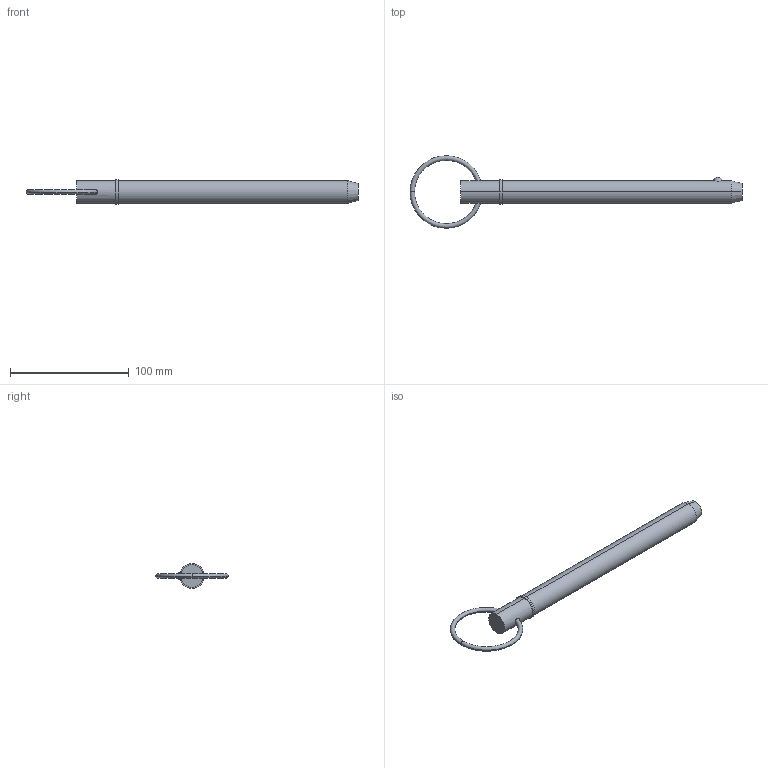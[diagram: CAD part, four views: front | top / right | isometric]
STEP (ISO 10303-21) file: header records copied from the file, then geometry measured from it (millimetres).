
FILE_DESCRIPTION (( 'STEP AP203' ), '1' );
FILE_NAME ('33016.W7570.step', '2024-11-07T11:15:35', ( '' ), ( '' ), 'SwSTEP 2.0', 'SolidWorks 2019', '' );
FILE_SCHEMA (( 'CONFIG_CONTROL_DESIGN' ));
Length unit declared in the file: millimetre
Products named in the file (3): Part2_33016.W7570; 33016.W7570; Part1_33016.W7570
Assembly tree (2 placements, depth 2):
  33016.W7570
    Part1_33016.W7570
    Part2_33016.W7570
Bounding box: 279 x 60.96 x 20.95 mm (x, y, z)
Volume: 68723.1 mm3; surface area: 17107.4 mm2
Topology: 2 solids, 2 shells, 22 faces, 43 edges, 26 vertices
Faces by surface type: torus 8, cylinder 6, plane 4, sphere 2, cone 2
Entity records: 1053 total; most frequent: CARTESIAN_POINT 276, DIRECTION 120, ORIENTED_EDGE 86, AXIS2_PLACEMENT_3D 56, EDGE_CURVE 43, CIRCLE 29, EDGE_LOOP 27, VERTEX_POINT 26
